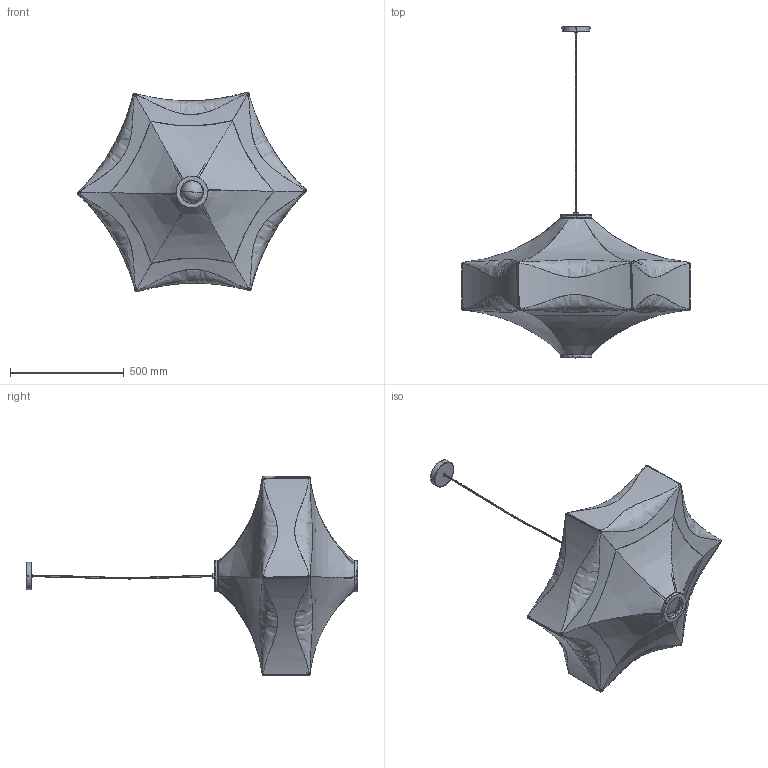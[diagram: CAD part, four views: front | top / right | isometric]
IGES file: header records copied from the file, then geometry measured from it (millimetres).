
Start section: SolidWorks IGES file using analytic representation for surfaces
Global section: file name: G:\Drive condivisi\Ufficio Tecnico\Research\X17 Sorpresa - Expand\Progetto\3D Models\3D  SIto\ATP-X17-S100-R01 - Sito.IGS; native system: SolidWorks 2024; preprocessor: SolidWorks 2024; author: Tecnico; date: 240920.112504; units: millimetre
Bounding box: 1003.62 x 1458.28 x 877.92 mm (x, y, z)
Surface area: 2385923.4 mm2 (no closed solid volume)
Topology: 0 solids, 0 shells, 621 faces, 11545 edges, 11543 vertices
Faces by surface type: bspline 413, revolution 208
